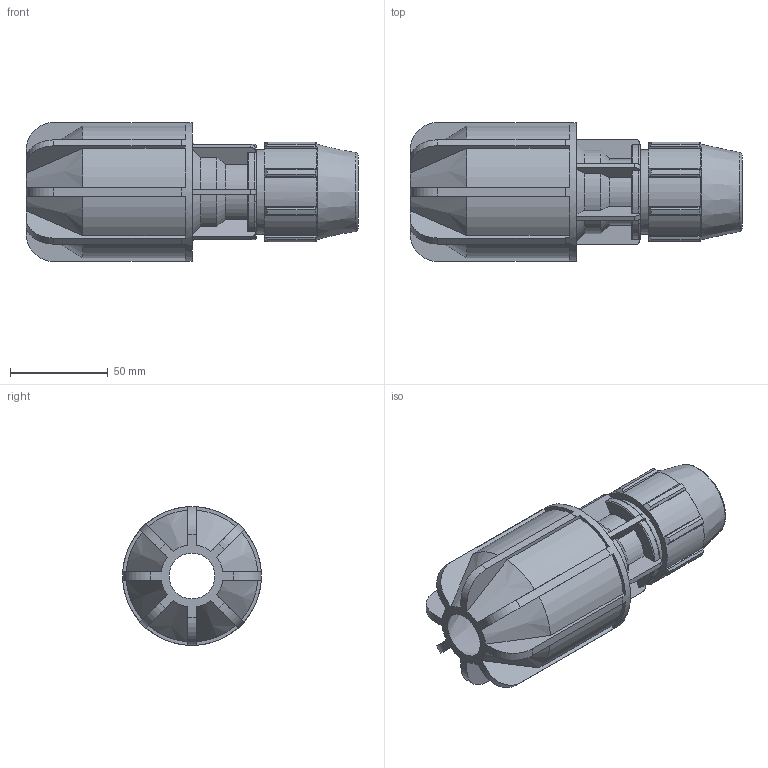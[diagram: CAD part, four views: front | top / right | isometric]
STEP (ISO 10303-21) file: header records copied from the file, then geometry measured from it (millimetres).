
FILE_DESCRIPTION(/* description */ ('PLASSON PLASS4 COUPLING 3/4'''' - 0.925'),/* implementation_level */ '2;1');
FILE_NAME(/* name */ 'C:\Dropbox\KIMPROJECTS-Inventor 2019\99-16-3568-Processing Inch\ASTM Compression 2021\070170M0\070170M07027.ipt.stp',/* time_stamp */ '2021-08-26T12:28:49+03:00',/* author */ ('KIM'),/* organization */ (''),/* preprocessor_version */ 'ST-DEVELOPER v17.2',/* originating_system */ 'Autodesk Inventor 2019',/* authorisation */ '');
FILE_SCHEMA (('AUTOMOTIVE_DESIGN { 1 0 10303 214 3 1 1 }'));
Length unit declared in the file: inch
Products named in the file (1): 070170M07027
Bounding box: 169.93 x 71.12 x 71.12 mm (x, y, z)
Volume: 274271.7 mm3; surface area: 64060.5 mm2
Topology: 1 solids, 1 shells, 220 faces, 639 edges, 426 vertices
Faces by surface type: plane 111, cylinder 61, cone 34, torus 14
Full cylindrical faces by diameter (mm): 23.94 x1, 26.6 x1, 32.614 x1, 43.282 x1, 71.12 x1
Entity records: 7688 total; most frequent: CARTESIAN_POINT 1646, ORIENTED_EDGE 1278, DIRECTION 1191, EDGE_CURVE 639, AXIS2_PLACEMENT_3D 427, VERTEX_POINT 426, LINE 337, VECTOR 337
